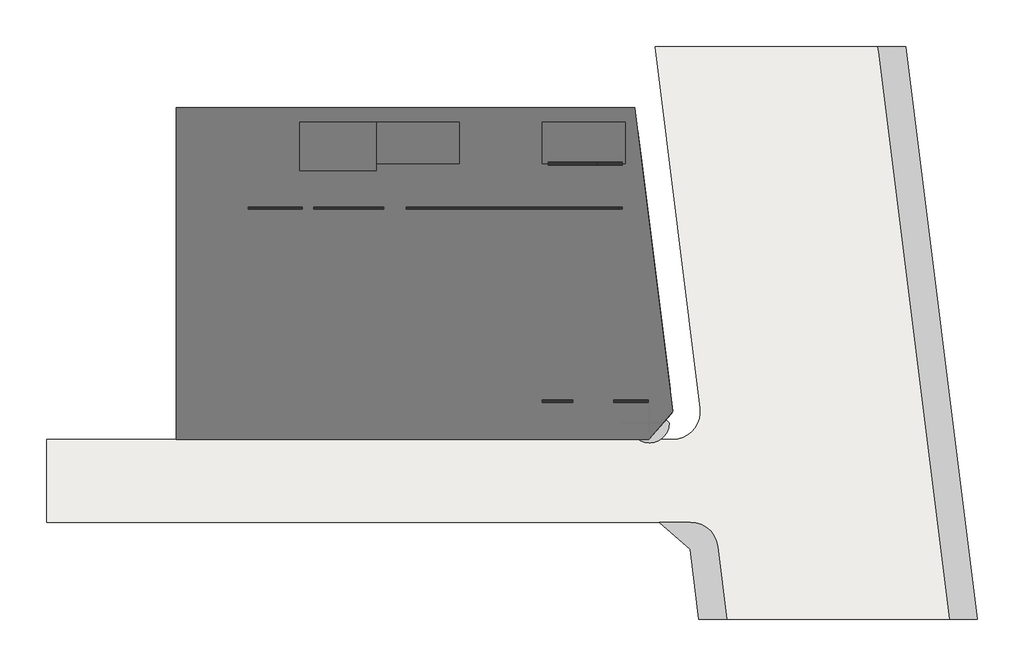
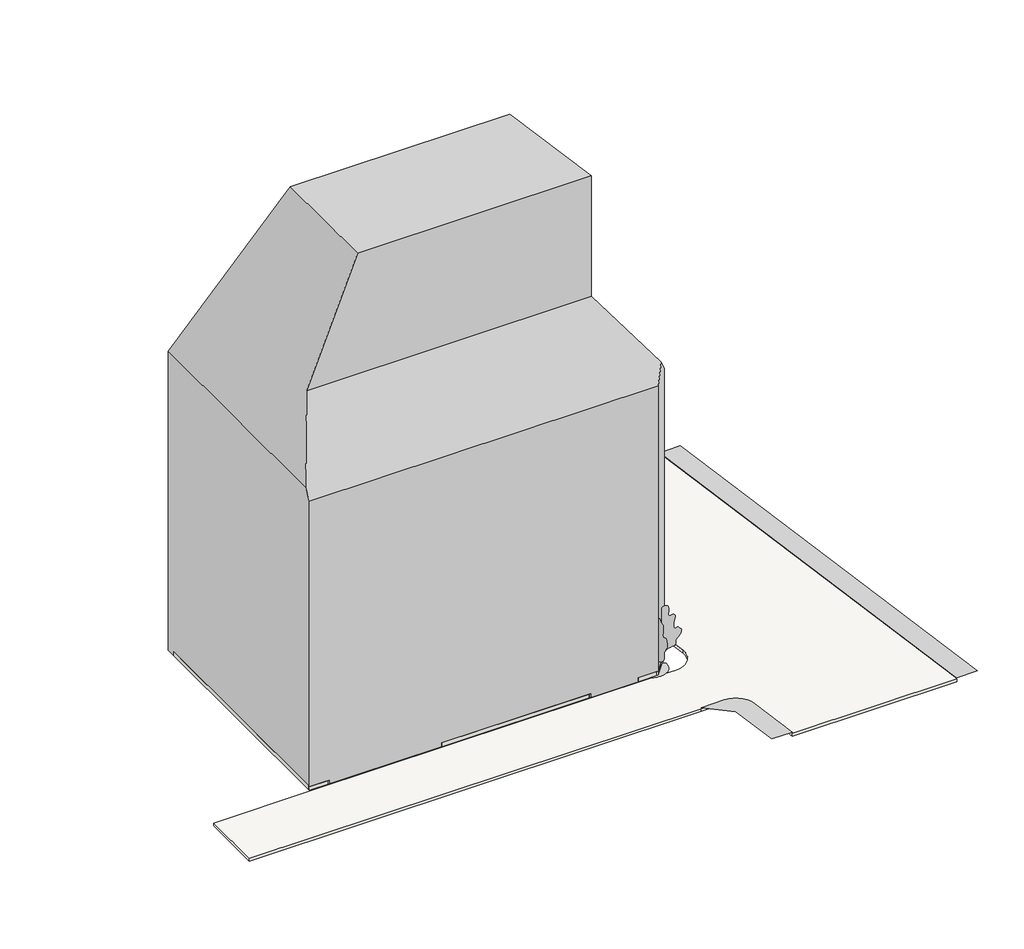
# One storey, incomplete: 22 walls, 8 proxies, 2 geographic elements, 2 slabs.
"""IFC4 building model written with IfcOpenShell, lengths in millimetres."""

from ifc_helpers import new_model, si_unit, point, frame, frame_2d, origin, origin_with_axes, place, context, project, spatial, polyline, circle_curve, trimmed, segment, composite_curve, outline, extrude, faceted_brep, triangles, transform, mapped, element, save
from components import generic_models_d69f2043, generic_models_1324edb1, generic_models_9d1d942f, geographic_element_be49fed4, geographic_element_4fc74e1d

model = new_model("IFC4")

# Units and contexts
model_context = context("Model", 3, world=origin())
ifc_project = project(units=[si_unit("LENGTHUNIT", "METRE", prefix="MILLI")], contexts=[model_context])

# Site, building, storey
site = spatial("IfcSite", under=ifc_project)
building = spatial("IfcBuilding", under=site)
storey = spatial("IfcBuildingStorey", under=building, Name="設計GL", Elevation=0.0)

# Proxies
placement = place(None, origin())
element("IfcBuildingElementProxy", 1, Name="Building Element Proxy", at=placement, inside=storey, context=model_context, shape_type="Tessellation", body=[
    triangles([(9293.2711212, -14051.9550751, 0.0), (9200.0797165, -13650.0226318, 0.0), (9026.3961319, -13275.7664063, 0.0), (8779.6117767, -12945.1121704, 0.0), (8470.2300797, -12672.1346466, 0.0), (8111.4176788, -12468.4494049, 0.0), (7718.4445724, -12342.7256836, 0.0), (7308.0359024, -12300.3131561, 0.0), (5058.455191, -12300.3131561, 0.0), (7306.8133026, -14284.8315582, 0.0), (7938.3683578, -19331.3002716, 0.0), (9953.969165, -19331.3002716, 0.0)], [[6, 10, 5], [1, 10, 11], [10, 6, 7], [10, 8, 9], [8, 10, 7], [2, 10, 1], [10, 2, 3], [4, 5, 10], [10, 3, 4], [1, 11, 12]], closed=False),
])
element("IfcBuildingElementProxy", 2, Name="Building Element Proxy", at=placement, inside=storey, context=model_context, shape_type="Tessellation", body=[
    triangles([(26078.777948, -19331.3002716, 0.0), (28094.3804993, -19331.3002716, 0.0), (22904.3786865, 22139.6765259, 0.0), (21485.0629944, 22139.6765259, 0.0), (20888.7761353, 22139.6765259, 0.0), (20937.256897, 21752.3001709, 0.0)], [[5, 6, 4], [4, 6, 3], [3, 1, 2], [1, 3, 6]], closed=False),
])
element("IfcBuildingElementProxy", 3, Name="i_コア : i_コア", ObjectType="i_コア : i_コア", at=placement, inside=storey, context=model_context, shape_type="SweptSolid", body=[
    extrude(outline(polyline([(-9395.9784025, 16649.6868987), (-9395.9784025, 13649.6868987), (-15395.9784025, 13649.6868987), (-15395.9784025, 16649.6868987), (-9395.9784025, 16649.6868987)])), origin_with_axes(), (0.0, 0.0, 1.0), 32600.0),
])
element("IfcBuildingElementProxy", 4, Name="i_コア1 : i_コア", ObjectType="i_コア1 : i_コア", at=placement, inside=storey, context=model_context, shape_type="SweptSolid", body=[
    extrude(outline(polyline([(2604.0215975, 16649.6868987), (2604.0215975, 13649.6868987), (-3395.9784025, 13649.6868987), (-3395.9784025, 16649.6868987), (2604.0215975, 16649.6868987)])), origin_with_axes(), (0.0, 0.0, 1.0), 32600.0),
])
element("IfcBuildingElementProxy", 5, Name="i_コア2 : i_コア", ObjectType="i_コア2 : i_コア", at=placement, inside=storey, context=model_context, shape_type="SweptSolid", body=[
    extrude(outline(polyline([(-15395.9784025, 16649.6868987), (-15395.9784025, 13149.6868987), (-20945.9784025, 13149.6868987), (-20945.9784025, 16649.6868987), (-15395.9784025, 16649.6868987)])), origin_with_axes(), (0.0, 0.0, 1.0), 32600.0),
])
generic_models_shape = generic_models_d69f2043(model_context)
element("IfcBuildingElementProxy", 6, Name="斜線モデル : 斜線モデル", ObjectType="斜線モデル : 斜線モデル", at=placement, inside=storey, context=model_context, shape_type="MappedRepresentation", body=[
    mapped(generic_models_shape, transform((0.0, 0.0, 0.0), x_axis=(1.0, 0.0, 0.0), y_axis=(0.0, 1.0, 0.0), z_axis=(0.0, 0.0, 1.0))),
])
generic_models_2_shape = generic_models_1324edb1(model_context)
element("IfcBuildingElementProxy", 7, Name="門型 : 門型", ObjectType="門型 : 門型", at=placement, inside=storey, context=model_context, shape_type="MappedRepresentation", body=[
    mapped(generic_models_2_shape, transform((0.0, 0.0, 0.0), x_axis=(1.0, 0.0, 0.0), y_axis=(0.0, 1.0, 0.0), z_axis=(0.0, 0.0, 1.0))),
])
generic_models_3_shape = generic_models_9d1d942f(model_context)
element("IfcBuildingElementProxy", 8, Name="水平ルーバー（Ｌ型） : ｈ50ｄ200＠200", ObjectType="水平ルーバー（Ｌ型） : ｈ50ｄ200＠200", at=placement, inside=storey, context=model_context, shape_type="MappedRepresentation", body=[
    mapped(generic_models_3_shape, transform((1679.0215975, 15924.6868987, 0.0), x_axis=(0.0, -1.0, 0.0), y_axis=(1.0, 0.0, 0.0), z_axis=(0.0, 0.0, 1.0))),
])

# Geographic elements
geographic_element_shape = geographic_element_be49fed4(model_context)
element("IfcGeographicElement", 9, ObjectType="RPC 木 - 落葉樹 : アメリカブナ - 6.0 メートル", at=placement, inside=storey, context=model_context, shape_type="MappedRepresentation", body=[
    mapped(geographic_element_shape, transform((4357.3946627, -5133.9078052, 0.0), x_axis=(1.0, 0.0, 0.0), y_axis=(0.0, 1.0, 0.0), z_axis=(0.0, 0.0, 1.0))),
])
geographic_element_2_shape = geographic_element_4fc74e1d(model_context)
element("IfcGeographicElement", 10, ObjectType="r 低木密植 : 低木密植", at=placement, inside=storey, context=model_context, shape_type="MappedRepresentation", body=[
    mapped(geographic_element_2_shape, transform((1605.8516365, 13749.0248338, 50.0), x_axis=(1.0, 0.0, 0.0), y_axis=(0.0, 1.0000000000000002, 0.0), z_axis=(0.0, 0.0, 1.0000000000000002))),
])

# Slabs
element("IfcSlab", 11, ObjectType="道路", at=placement, inside=storey, context=model_context, shape_type="SweptSolid", body=[
    extrude(outline(composite_curve([segment(polyline([(-29895.9785788, -6300.3132206), (4304.0214212, -6300.3132206), (6057.2733723, -6300.3132206)]), True, "CONTINUOUS"), segment(trimmed(circle_curve(frame_2d((6057.2733102, -4300.3133048)), 1999.9999158), [point((6057.2733723, -6300.3132206))], [point((8041.7928708, -4051.9551425))], True, "CARTESIAN"), True, "CONTINUOUS"), segment(polyline([(8041.7928708, -4051.9551425), (4763.9675217, 22139.6769092), (20888.7765257, 22139.6769092), (26078.7785229, -19331.3005569), (9953.9695189, -19331.3005569), (9293.2710035, -14051.9551424)]), True, "CONTINUOUS"), segment(trimmed(circle_curve(frame_2d((7308.7513734, -14300.3134274)), 2000.0), [point((9293.2710035, -14051.9551424))], [point((7308.0356737, -12300.3135555))], True, "CARTESIAN"), True, "CONTINUOUS"), segment(polyline([(7308.0356737, -12300.3135555), (5058.4554598, -12300.3135555), (-39264.687591, -12300.3135555), (-39264.687591, -6300.3132206), (-29895.9785788, -6300.3132206)]), True, "CONTINUOUS")], self_intersect=False)), frame((0.0, 0.0, -400.0), z_axis=(0.0, 0.0, 1.0), x_axis=(1.0, 0.0, 0.0)), (0.0, 0.0, 1.0), 300.0),
])
element("IfcSlab", 12, ObjectType="舗装", at=placement, inside=storey, context=model_context, shape_type="SweptSolid", body=[
    extrude(outline(composite_curve([segment(polyline([(3823.3848316, 13549.6868987), (5850.7793492, -2650.3131013), (2754.0215975, -2650.3131013), (2754.0215975, -3450.3131013), (2329.0215975, -3450.3131013), (2329.0215975, -6191.5640242), (-2320.9784025, -6191.5640242), (-2320.9784025, -3450.3131013), (-1945.9784025, -3450.3131013), (-1945.9784025, 189.6095485)]), True, "CONTINUOUS"), segment(trimmed(circle_curve(frame_2d((4214.6177511, -205.3517764)), 6173.2438325), [point((-1945.9784025, 189.6095485))], [point((-395.9784025, 3899.6868987))], False, "CARTESIAN"), True, "CONTINUOUS"), segment(trimmed(circle_curve(frame_2d((-4969.3732678, 7971.6034521)), 6123.4340865), [point((-395.9784025, 3899.6868987))], [point((1154.0215975, 7949.6868987))], True, "CARTESIAN"), True, "CONTINUOUS"), segment(polyline([(1154.0215975, 7949.6868987), (1154.0215975, 10524.6868987), (459.0215975, 10524.6868987), (459.0215975, 13549.6868987), (3823.3848316, 13549.6868987)]), True, "CONTINUOUS")], self_intersect=False)), frame((0.0, 0.0, -100.0), z_axis=(0.0, 0.0, 1.0), x_axis=(1.0, 0.0, 0.0)), (0.0, 0.0, 1.0), 150.0),
])

# Walls
element("IfcWall", 13, ObjectType="標準200", at=placement, inside=storey, context=model_context, shape_type="Brep", body=[
    faceted_brep([(-2945.9784025, 13549.6868987, 0.0), (454.0215975, 13549.6868987, 0.0), (454.0215975, 13549.6868987, 100.0), (554.0215975, 13549.6868987, 100.0), (554.0215975, 13549.6868987, 3500.0), (-2945.9784025, 13549.6868987, 3500.0), (-2945.9784025, 13549.6868987, 100.0), (-2945.9784025, 13749.6868987, 0.0), (-2945.9784025, 13749.6868987, 3500.0), (554.0215975, 13749.6868987, 3500.0), (554.0215975, 13749.6868987, 100.0), (454.0215975, 13749.6868987, 100.0), (454.0215975, 13749.6868987, 0.0)], [[[0, 1, 2, 3, 4, 5, 6]], [[7, 8, 9, 10, 11, 12]], [[1, 0, 7, 12]], [[5, 4, 9, 8]], [[0, 6, 5, 8, 7]], [[2, 1, 12, 11]], [[4, 3, 10, 9]], [[10, 3, 2, 11]]]),
])
element("IfcWall", 14, ObjectType="標準200", at=placement, inside=storey, context=model_context, shape_type="Brep", body=[
    faceted_brep([(-1195.9784025, -3450.3131013, 0.0), (-2945.9784025, -3450.3131013, 0.0), (-3395.9784025, -3450.3131013, 0.0), (-3395.9784025, -3450.3131013, 4600.0), (-1195.9784025, -3450.3131013, 4600.0), (-1195.9784025, -3650.3131013, 0.0), (-1195.9784025, -3650.3131013, 4600.0), (-3395.9784025, -3650.3131013, 4600.0), (-3395.9784025, -3650.3131013, 0.0), (-2470.9784025, -3650.3131013, 0.0), (-2320.9784025, -3650.3131013, 0.0), (-3395.9784025, -3550.3131013, 0.0)], [[[0, 1, 2, 3, 4]], [[5, 6, 7, 8, 9, 10]], [[2, 1, 0, 5, 10, 9, 8, 11]], [[3, 2, 11, 8, 7]], [[4, 3, 7, 6]], [[0, 4, 6, 5]]]),
])
element("IfcWall", 15, ObjectType="標準150", at=placement, inside=storey, context=model_context, shape_type="SweptSolid", body=[
    extrude(outline(polyline([(2054.0215975, 10524.6868987), (2404.0215975, 10524.6868987), (2404.0215975, 10374.6868987), (2054.0215975, 10374.6868987), (2054.0215975, 10524.6868987)])), origin_with_axes(), (0.0, 0.0, 1.0), 3500.0),
])
element("IfcWall", 16, ObjectType="標準200", at=placement, inside=storey, context=model_context, shape_type="Brep", body=[
    faceted_brep([(4261.9595949, -3450.3131013, 0.0), (3654.0215975, -3450.3131013, 0.0), (2754.0215975, -3450.3131013, 0.0), (1761.9595949, -3450.3131013, 0.0), (1761.9595949, -3450.3131013, 4600.0), (4261.9595949, -3450.3131013, 4600.0), (4261.9595949, -3650.3131013, 0.0), (4261.9595949, -3650.3131013, 4600.0), (1761.9595949, -3650.3131013, 4600.0), (1761.9595949, -3650.3131013, 0.0), (2329.0215975, -3650.3131013, 0.0), (2479.0215975, -3650.3131013, 0.0)], [[[0, 1, 2, 3, 4, 5]], [[6, 7, 8, 9, 10, 11]], [[3, 2, 1, 0, 6, 11, 10, 9]], [[4, 3, 9, 8]], [[5, 4, 8, 7]], [[0, 5, 7, 6]]]),
])
element("IfcWall", 17, ObjectType="外構 花壇立上り 150", at=placement, inside=storey, context=model_context, shape_type="Brep", body=[
    faceted_brep([(3654.0215975, -2800.3131013, 0.0), (5718.3814362, -2800.3131013, 0.0), (5869.5515207, -2800.3131013, 0.0), (5869.5515207, -2800.3131013, 400.0), (5718.3814362, -2800.3131013, 400.0), (3654.0215975, -2800.3131013, 400.0), (3654.0215975, -2650.3131013, 0.0), (3654.0215975, -2650.3131013, 400.0), (5850.7793492, -2650.3131013, 400.0), (5850.7793492, -2650.3131013, 0.0)], [[[0, 1, 2, 3, 4, 5]], [[6, 7, 8, 9]], [[2, 1, 0, 6, 9]], [[5, 4, 3, 8, 7]], [[0, 5, 7, 6]], [[3, 2, 9, 8]]]),
])
element("IfcWall", 18, ObjectType="外構 花壇立上り 150", at=placement, inside=storey, context=model_context, shape_type="Brep", body=[
    faceted_brep([(5718.3814362, -2800.3131013, 0.0), (5900.0684864, -4252.0928054, 0.0), (5924.9882623, -4451.2155545, 0.0), (5924.9882623, -4451.2155545, 400.0), (5900.0684864, -4252.0928054, 400.0), (5718.3814362, -2800.3131013, 400.0), (5869.5515207, -2800.3131013, 0.0), (5869.5515207, -2800.3131013, 400.0), (6057.2732352, -4300.3131013, 400.0), (6057.2732352, -4300.3131013, 0.0)], [[[0, 1, 2, 3, 4, 5]], [[6, 7, 8, 9]], [[2, 1, 0, 6, 9]], [[5, 4, 3, 8, 7]], [[0, 5, 7, 6]], [[3, 2, 9, 8]]]),
])
element("IfcWall", 19, ObjectType="外構 花壇立上り 150", at=placement, inside=storey, context=model_context, shape_type="Brep", body=[
    faceted_brep([(5900.0684864, -4252.0928054, 0.0), (4236.0393796, -6150.3135097, 0.0), (4104.5455204, -6300.3135097, 0.0), (4104.5455204, -6300.3135097, 400.0), (4236.0393796, -6150.3135097, 400.0), (5900.0684864, -4252.0928054, 400.0), (5924.9882623, -4451.2155545, 0.0), (5924.9882623, -4451.2155545, 400.0), (4304.0214212, -6300.3135097, 400.0), (4304.0214212, -6300.3135097, 0.0)], [[[0, 1, 2, 3, 4, 5]], [[6, 7, 8, 9]], [[2, 1, 0, 6, 9]], [[5, 4, 3, 8, 7]], [[0, 5, 7, 6]], [[3, 2, 9, 8]]]),
])
element("IfcWall", 20, ObjectType="外構 花壇立上り 150", at=placement, inside=storey, context=model_context, shape_type="Brep", body=[
    faceted_brep([(4236.0393796, -6150.3135097, 0.0), (2479.0215975, -6150.3135097, 0.0), (2329.0215975, -6150.3135097, 0.0), (2329.0215975, -6150.3135097, 400.0), (2479.0215975, -6150.3135097, 400.0), (4236.0393796, -6150.3135097, 400.0), (4104.5455204, -6300.3135097, 0.0), (4104.5455204, -6300.3135097, 400.0), (2329.0215975, -6300.3135097, 400.0), (2329.0215975, -6300.3135097, 0.0)], [[[0, 1, 2, 3, 4, 5]], [[6, 7, 8, 9]], [[2, 1, 0, 6, 9]], [[5, 4, 3, 8, 7]], [[0, 5, 7, 6]], [[3, 2, 9, 8]]]),
])
element("IfcWall", 21, ObjectType="外構 花壇立上り 150", at=placement, inside=storey, context=model_context, shape_type="SweptSolid", body=[
    extrude(outline(polyline([(2479.0215975, -3650.3131013), (2479.0215975, -6150.3135097), (2329.0215975, -6150.3135097), (2329.0215975, -3650.3131013), (2479.0215975, -3650.3131013)])), origin_with_axes(), (0.0, 0.0, 1.0), 400.0),
])
element("IfcWall", 22, ObjectType="外構 花壇立上り 150", at=placement, inside=storey, context=model_context, shape_type="Brep", body=[
    faceted_brep([(-2470.9784025, -3650.3131013, 0.0), (-2470.9784025, -6150.3135097, 0.0), (-2470.9784025, -6300.3135097, 0.0), (-2470.9784025, -6300.3135097, 400.0), (-2470.9784025, -6150.3135097, 400.0), (-2470.9784025, -3650.3131013, 400.0), (-2320.9784025, -3650.3131013, 0.0), (-2320.9784025, -3650.3131013, 400.0), (-2320.9784025, -6300.3135097, 400.0), (-2320.9784025, -6300.3135097, 0.0)], [[[0, 1, 2, 3, 4, 5]], [[6, 7, 8, 9]], [[2, 1, 0, 6, 9]], [[5, 4, 3, 8, 7]], [[0, 5, 7, 6]], [[3, 2, 9, 8]]]),
])
element("IfcWall", 23, ObjectType="外構 花壇立上り 150", at=placement, inside=storey, context=model_context, shape_type="Brep", body=[
    faceted_brep([(-2470.9784025, -6150.3135097, 0.0), (-16795.9784025, -6150.3135097, 0.0), (-16945.9784025, -6150.3135097, 0.0), (-16945.9784025, -6150.3135097, 400.0), (-16795.9784025, -6150.3135097, 400.0), (-2470.9784025, -6150.3135097, 400.0), (-2470.9784025, -6300.3135097, 0.0), (-2470.9784025, -6300.3135097, 400.0), (-16945.9784025, -6300.3135097, 400.0), (-16945.9784025, -6300.3135097, 0.0)], [[[0, 1, 2, 3, 4, 5]], [[6, 7, 8, 9]], [[2, 1, 0, 6, 9]], [[5, 4, 3, 8, 7]], [[0, 5, 7, 6]], [[3, 2, 9, 8]]]),
])
element("IfcWall", 24, ObjectType="外構 花壇立上り 150", at=placement, inside=storey, context=model_context, shape_type="SweptSolid", body=[
    extrude(outline(polyline([(-16795.9784025, -5050.3131013), (-16795.9784025, -6150.3135097), (-16945.9784025, -6150.3135097), (-16945.9784025, -5050.3131013), (-16795.9784025, -5050.3131013)])), origin_with_axes(), (0.0, 0.0, 1.0), 400.0),
])
element("IfcWall", 25, ObjectType="外構 花壇立上り 150", at=placement, inside=storey, context=model_context, shape_type="Brep", body=[
    faceted_brep([(-28095.9784025, -5050.3131013, 0.0), (-28095.9784025, -6150.3135097, 0.0), (-28095.9784025, -6300.3135097, 0.0), (-28095.9784025, -6300.3135097, 400.0), (-28095.9784025, -6150.3135097, 400.0), (-28095.9784025, -5050.3131013, 400.0), (-27945.9784025, -5050.3131013, 0.0), (-27945.9784025, -5050.3131013, 400.0), (-27945.9784025, -6300.3135097, 400.0), (-27945.9784025, -6300.3135097, 0.0)], [[[0, 1, 2, 3, 4, 5]], [[6, 7, 8, 9]], [[2, 1, 0, 6, 9]], [[5, 4, 3, 8, 7]], [[0, 5, 7, 6]], [[3, 2, 9, 8]]]),
])
element("IfcWall", 26, ObjectType="外構 花壇立上り 150", at=placement, inside=storey, context=model_context, shape_type="Brep", body=[
    faceted_brep([(-28095.9784025, -6150.3135097, 0.0), (-29745.9784025, -6150.3135097, 0.0), (-29895.9784025, -6150.3135097, 0.0), (-29895.9784025, -6150.3135097, 400.0), (-29745.9784025, -6150.3135097, 400.0), (-28095.9784025, -6150.3135097, 400.0), (-28095.9784025, -6300.3135097, 0.0), (-28095.9784025, -6300.3135097, 400.0), (-29895.9784025, -6300.3135097, 400.0), (-29895.9784025, -6300.3135097, 0.0)], [[[0, 1, 2, 3, 4, 5]], [[6, 7, 8, 9]], [[2, 1, 0, 6, 9]], [[5, 4, 3, 8, 7]], [[0, 5, 7, 6]], [[3, 2, 9, 8]]]),
])
element("IfcWall", 27, ObjectType="外構 花壇立上り 150", at=placement, inside=storey, context=model_context, shape_type="Brep", body=[
    faceted_brep([(-29745.9784025, -6150.3135097, 0.0), (-29745.9784025, 16599.6868987, 0.0), (-29745.9784025, 16749.6868987, 0.0), (-29745.9784025, 16749.6868987, 400.0), (-29745.9784025, 16599.6868987, 400.0), (-29745.9784025, -6150.3135097, 400.0), (-29895.9784025, -6150.3135097, 0.0), (-29895.9784025, -6150.3135097, 400.0), (-29895.9784025, 16749.6868987, 400.0), (-29895.9784025, 16749.6868987, 0.0)], [[[0, 1, 2, 3, 4, 5]], [[6, 7, 8, 9]], [[2, 1, 0, 6, 9]], [[5, 4, 3, 8, 7]], [[0, 5, 7, 6]], [[3, 2, 9, 8]]]),
])
element("IfcWall", 28, ObjectType="外構 花壇立上り 150", at=placement, inside=storey, context=model_context, shape_type="SweptSolid", body=[
    extrude(outline(polyline([(-28945.9784025, 16599.6868987), (-29745.9784025, 16599.6868987), (-29745.9784025, 16749.6868987), (-28945.9784025, 16749.6868987), (-28945.9784025, 16599.6868987)])), origin_with_axes(), (0.0, 0.0, 1.0), 400.0),
])
element("IfcWall", 29, ObjectType="外構 花壇立上り 150", at=placement, inside=storey, context=model_context, shape_type="Brep", body=[
    faceted_brep([(-28695.9784025, -2650.3131013, 0.0), (-28695.9784025, 3449.6868987, 0.0), (-28695.9784025, 3449.6868987, 400.0), (-28695.9784025, -2650.3131013, 400.0), (-28845.9784025, -2650.3131013, 0.0), (-28845.9784025, -2650.3131013, 400.0), (-28845.9784025, 3449.6868987, 400.0), (-28845.9784025, 3449.6868987, 0.0), (-28745.9784025, 3449.6868987, 0.0)], [[[0, 1, 2, 3]], [[4, 5, 6, 7]], [[1, 0, 4, 7, 8]], [[2, 1, 8, 7, 6]], [[3, 2, 6, 5]], [[0, 3, 5, 4]]]),
])
element("IfcWall", 30, ObjectType="標準150", at=placement, inside=storey, context=model_context, shape_type="Brep", body=[
    faceted_brep([(2054.0215975, 10524.6868987, 0.0), (1154.0215975, 10524.6868987, 0.0), (-2945.9784025, 10524.6868987, 0.0), (-3845.9784025, 10524.6868987, 0.0), (-8945.9784025, 10524.6868987, 0.0), (-9745.9784025, 10524.6868987, 0.0), (-9845.9784025, 10524.6868987, 0.0), (-14945.9784025, 10524.6868987, 0.0), (-15845.9784025, 10524.6868987, 0.0), (-20945.9784025, 10524.6868987, 0.0), (-21845.9784025, 10524.6868987, 0.0), (-24670.9784025, 10524.6868987, 0.0), (-24670.9784025, 10524.6868987, 100.0), (-24670.9784025, 10524.6868987, 4600.0), (-21845.9784025, 10524.6868987, 4600.0), (-21795.9784025, 10524.6868987, 4600.0), (-20995.9784025, 10524.6868987, 4600.0), (-20895.9784025, 10524.6868987, 4600.0), (-19195.9784025, 10524.6868987, 4600.0), (-19095.9784025, 10524.6868987, 4600.0), (-15895.9784025, 10524.6868987, 4600.0), (-15795.9784025, 10524.6868987, 4600.0), (-15445.9784025, 10524.6868987, 4600.0), (-15345.9784025, 10524.6868987, 4600.0), (-14945.9784025, 10524.6868987, 4600.0), (-13195.9784025, 10524.6868987, 4600.0), (-13095.9784025, 10524.6868987, 4600.0), (-9845.9784025, 10524.6868987, 4600.0), (-9445.9784025, 10524.6868987, 4600.0), (-9345.9784025, 10524.6868987, 4600.0), (-8945.9784025, 10524.6868987, 4600.0), (-7195.9784025, 10524.6868987, 4600.0), (-7095.9784025, 10524.6868987, 4600.0), (-3845.9784025, 10524.6868987, 4600.0), (-3145.9784025, 10524.6868987, 4600.0), (-2945.9784025, 10524.6868987, 4600.0), (1354.0215975, 10524.6868987, 4600.0), (2054.0215975, 10524.6868987, 4600.0), (2054.0215975, 10524.6868987, 3500.0), (-13220.9784025, 10524.6868987, 2125.0), (-14870.9784025, 10524.6868987, 2125.0), (-14870.9784025, 10524.6868987, 100.0), (-13220.9784025, 10524.6868987, 100.0), (-20770.9784025, 10524.6868987, 2125.0), (-20770.9784025, 10524.6868987, 100.0), (-19920.9784025, 10524.6868987, 100.0), (-19920.9784025, 10524.6868987, 2125.0), (2054.0215975, 10374.6868987, 0.0), (2054.0215975, 10374.6868987, 3500.0), (2054.0215975, 10374.6868987, 4600.0), (-16770.9784025, 10374.6868987, 4600.0), (-16920.9784025, 10374.6868987, 4600.0), (-20870.9784025, 10374.6868987, 4600.0), (-21020.9784025, 10374.6868987, 4600.0), (-24670.9784025, 10374.6868987, 4600.0), (-24670.9784025, 10374.6868987, 0.0), (-13220.9784025, 10374.6868987, 2125.0), (-13220.9784025, 10374.6868987, 100.0), (-14870.9784025, 10374.6868987, 100.0), (-14870.9784025, 10374.6868987, 2125.0), (-20770.9784025, 10374.6868987, 2125.0), (-19920.9784025, 10374.6868987, 2125.0), (-19920.9784025, 10374.6868987, 100.0), (-20770.9784025, 10374.6868987, 100.0), (2054.0215975, 10449.6868987, 0.0), (2054.0215975, 10449.6868987, 4600.0)], [[[0, 1, 2, 3, 4, 5, 6, 7, 8, 9, 10, 11, 12, 13, 14, 15, 16, 17, 18, 19, 20, 21, 22, 23, 24, 25, 26, 27, 28, 29, 30, 31, 32, 33, 34, 35, 36, 37, 38], [39, 40, 41, 42], [43, 44, 45, 46]], [[47, 48, 49, 50, 51, 52, 53, 54, 55], [56, 57, 58, 59], [60, 61, 62, 63]], [[11, 10, 9, 8, 7, 6, 5, 4, 3, 2, 1, 0, 64, 47, 55]], [[37, 36, 35, 34, 33, 32, 31, 30, 29, 28, 27, 26, 25, 24, 23, 22, 21, 20, 19, 18, 17, 16, 15, 14, 13, 54, 53, 52, 51, 50, 49, 65]], [[0, 38, 37, 65, 49, 48, 47, 64]], [[13, 12, 11, 55, 54]], [[56, 59, 40, 39]], [[59, 58, 41, 40]], [[58, 57, 42, 41]], [[57, 56, 39, 42]], [[43, 46, 61, 60]], [[46, 45, 62, 61]], [[45, 44, 63, 62]], [[44, 43, 60, 63]]]),
])
element("IfcWall", 31, ObjectType="標準200", at=placement, inside=storey, context=model_context, shape_type="Brep", body=[
    faceted_brep([(454.0215975, 13549.6868987, 0.0), (2404.0215975, 13549.6868987, 0.0), (2404.0215975, 13549.6868987, 3500.0), (554.0215975, 13549.6868987, 3500.0), (554.0215975, 13549.6868987, 100.0), (454.0215975, 13549.6868987, 100.0), (454.0215975, 13749.6868987, 0.0), (454.0215975, 13749.6868987, 100.0), (554.0215975, 13749.6868987, 100.0), (554.0215975, 13749.6868987, 3500.0), (2404.0215975, 13749.6868987, 3500.0), (2404.0215975, 13749.6868987, 0.0), (2404.0215975, 13699.6868987, 0.0)], [[[0, 1, 2, 3, 4, 5]], [[6, 7, 8, 9, 10, 11]], [[1, 0, 6, 11, 12]], [[2, 1, 12, 11, 10]], [[3, 2, 10, 9]], [[0, 5, 7, 6]], [[4, 8, 7, 5]], [[4, 3, 9, 8]]]),
])
element("IfcWall", 32, ObjectType="外構 花壇立上り 150", at=placement, inside=storey, context=model_context, shape_type="Brep", body=[
    faceted_brep([(1679.0215975, 16049.6868987, 0.0), (3359.3452229, 16049.6868987, 0.0), (3510.5153073, 16049.6868987, 0.0), (3510.5153073, 16049.6868987, 400.0), (3359.3452229, 16049.6868987, 400.0), (1679.0215975, 16049.6868987, 400.0), (1679.0215975, 16199.6868987, 0.0), (1679.0215975, 16199.6868987, 400.0), (3491.7431358, 16199.6868987, 400.0), (3491.7431358, 16199.6868987, 0.0)], [[[0, 1, 2, 3, 4, 5]], [[6, 7, 8, 9]], [[2, 1, 0, 6, 9]], [[5, 4, 3, 8, 7]], [[0, 5, 7, 6]], [[3, 2, 9, 8]]]),
])
element("IfcWall", 33, ObjectType="外構 花壇立上り 150", at=placement, inside=storey, context=model_context, shape_type="Brep", body=[
    faceted_brep([(3359.3452229, 16049.6868987, 0.0), (3653.4425757, 13699.6868987, 0.0), (3672.2147472, 13549.6868987, 0.0), (3672.2147472, 13549.6868987, 400.0), (3653.4425757, 13699.6868987, 400.0), (3359.3452229, 16049.6868987, 400.0), (3510.5153073, 16049.6868987, 0.0), (3510.5153073, 16049.6868987, 400.0), (3823.3848316, 13549.6868987, 400.0), (3823.3848316, 13549.6868987, 0.0)], [[[0, 1, 2, 3, 4, 5]], [[6, 7, 8, 9]], [[2, 1, 0, 6, 9]], [[5, 4, 3, 8, 7]], [[0, 5, 7, 6]], [[3, 2, 9, 8]]]),
])
element("IfcWall", 34, ObjectType="外構 花壇立上り 150", at=placement, inside=storey, context=model_context, shape_type="SweptSolid", body=[
    extrude(outline(polyline([(2404.0215975, 13699.6868987), (3653.4425757, 13699.6868987), (3672.2147472, 13549.6868987), (2404.0215975, 13549.6868987), (2404.0215975, 13699.6868987)])), origin_with_axes(), (0.0, 0.0, 1.0), 400.0),
])

save(model, "model.ifc")
